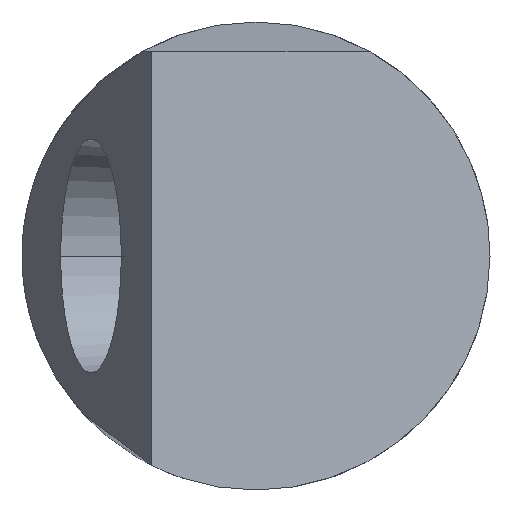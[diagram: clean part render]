
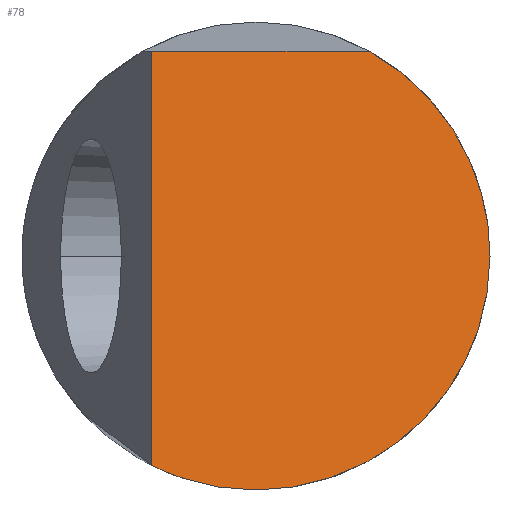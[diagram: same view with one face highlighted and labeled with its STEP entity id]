
A CAD part, left-side view. The second image highlights one B-rep face of the part: STEP entity #78.
In plain terms, the highlighted planar face has unit normal (-0.966, -0.259, 0).
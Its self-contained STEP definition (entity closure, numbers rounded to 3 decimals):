
#78=ADVANCED_FACE('',(#130),#129,.T.);
#129=PLANE('',#350);
#130=FACE_OUTER_BOUND('',#351,.T.);
#347=CARTESIAN_POINT('',(106.8,182.925,-24.841));
#348=DIRECTION('',(-0.966,-0.259,0.));
#349=DIRECTION('',(0.259,-0.966,0.));
#350=AXIS2_PLACEMENT_3D('',#347,#348,#349);
#351=EDGE_LOOP('',(#519,#520,#521,#522));
#519=ORIENTED_EDGE('',*,*,#610,.F.);
#520=ORIENTED_EDGE('',*,*,#611,.F.);
#521=ORIENTED_EDGE('',*,*,#612,.T.);
#522=ORIENTED_EDGE('',*,*,#613,.T.);
#610=EDGE_CURVE('',#709,#710,#711,.T.);
#611=EDGE_CURVE('',#717,#709,#718,.T.);
#612=EDGE_CURVE('',#717,#647,#724,.T.);
#613=EDGE_CURVE('',#647,#710,#730,.T.);
#647=VERTEX_POINT('',#951);
#709=VERTEX_POINT('',#991);
#710=VERTEX_POINT('',#992);
#711=(BOUNDED_CURVE() B_SPLINE_CURVE(2,(#993,#994,#995,#996,#997),.UNSPECIFIED.,.F.,.F.) B_SPLINE_CURVE_WITH_KNOTS((3,2,3),(-6.307,-5.815,-4.25),.UNSPECIFIED.) CURVE() GEOMETRIC_REPRESENTATION_ITEM() RATIONAL_B_SPLINE_CURVE((0.876,0.908,1.,0.715,1.)) REPRESENTATION_ITEM('') );
#717=VERTEX_POINT('',#998);
#718=(BOUNDED_CURVE() B_SPLINE_CURVE(2,(#999,#1000,#1001),.UNSPECIFIED.,.F.,.F.) B_SPLINE_CURVE_WITH_KNOTS((3,3),(-7.349,-6.307),.UNSPECIFIED.) CURVE() GEOMETRIC_REPRESENTATION_ITEM() RATIONAL_B_SPLINE_CURVE((1.,0.806,0.876)) REPRESENTATION_ITEM('') );
#724=LINE('',#1002,#1003);
#730=LINE('',#1005,#1006);
#951=CARTESIAN_POINT('',(107.567,180.065,14.));
#991=CARTESIAN_POINT('',(113.768,156.922,0.));
#992=CARTESIAN_POINT('',(107.567,180.065,-14.317));
#993=CARTESIAN_POINT('',(113.768,156.922,0.));
#994=CARTESIAN_POINT('',(113.768,156.922,-3.95));
#995=CARTESIAN_POINT('',(113.275,158.76,-7.446));
#996=CARTESIAN_POINT('',(111.322,166.05,-21.31));
#997=CARTESIAN_POINT('',(107.567,180.065,-14.317));
#998=CARTESIAN_POINT('',(111.556,165.176,14.));
#999=CARTESIAN_POINT('',(111.556,165.176,14.));
#1000=CARTESIAN_POINT('',(113.768,156.922,9.433));
#1001=CARTESIAN_POINT('',(113.768,156.922,0.));
#1002=CARTESIAN_POINT('',(111.556,165.176,14.));
#1003=VECTOR('',#1004,15.414);
#1004=DIRECTION('',(-0.259,0.966,0.));
#1005=CARTESIAN_POINT('',(107.567,180.065,14.));
#1006=VECTOR('',#1007,28.317);
#1007=DIRECTION('',(0.,0.,-1.));
